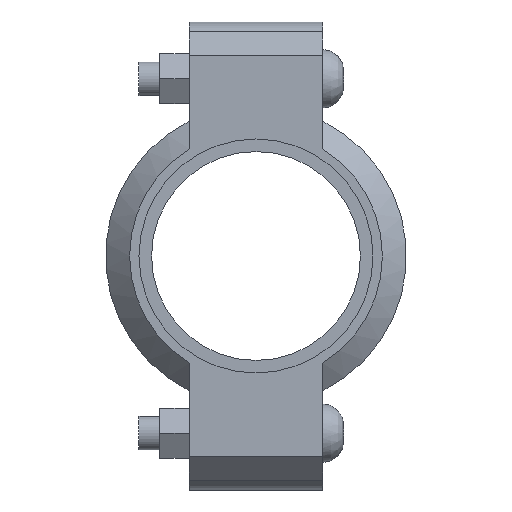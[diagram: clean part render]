
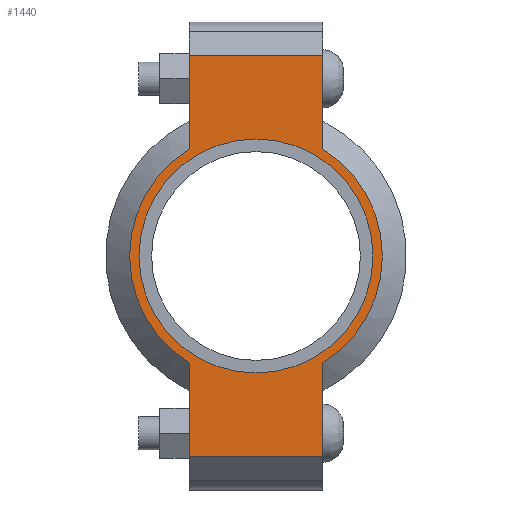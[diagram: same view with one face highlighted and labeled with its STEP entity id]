
A CAD part, left-side view. The second image highlights one B-rep face of the part: STEP entity #1440.
In plain terms, the highlighted planar face has unit normal (-1, 0, 0) as drawn and (0, 0, 1) by its records, which use the part's own axes.
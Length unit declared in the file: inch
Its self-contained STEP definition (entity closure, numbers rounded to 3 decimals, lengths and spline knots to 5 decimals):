
#120=LINE('',#2479,#211);
#128=LINE('',#2515,#219);
#135=LINE('',#2536,#226);
#144=LINE('',#2568,#235);
#145=LINE('',#2572,#236);
#146=LINE('',#2574,#237);
#211=VECTOR('',#2009,0.3937);
#219=VECTOR('',#2025,0.3937);
#226=VECTOR('',#2044,0.3937);
#235=VECTOR('',#2069,0.3937);
#236=VECTOR('',#2074,0.3937);
#237=VECTOR('',#2075,0.3937);
#289=FACE_BOUND('',#449,.T.);
#353=FACE_OUTER_BOUND('',#448,.T.);
#448=EDGE_LOOP('',(#1175,#1176,#1177,#1178,#1179,#1180,#1181,#1182));
#449=EDGE_LOOP('',(#1183));
#546=CIRCLE('',#1683,1.89);
#547=CIRCLE('',#1684,1.89);
#548=CIRCLE('',#1685,1.75);
#651=VERTEX_POINT('',#2476);
#652=VERTEX_POINT('',#2478);
#663=VERTEX_POINT('',#2510);
#664=VERTEX_POINT('',#2514);
#671=VERTEX_POINT('',#2533);
#672=VERTEX_POINT('',#2535);
#682=VERTEX_POINT('',#2571);
#683=VERTEX_POINT('',#2573);
#684=VERTEX_POINT('',#2576);
#815=EDGE_CURVE('',#652,#651,#120,.T.);
#829=EDGE_CURVE('',#664,#663,#128,.T.);
#839=EDGE_CURVE('',#672,#671,#135,.T.);
#854=EDGE_CURVE('',#664,#651,#144,.T.);
#855=EDGE_CURVE('',#663,#672,#546,.T.);
#856=EDGE_CURVE('',#682,#671,#145,.T.);
#857=EDGE_CURVE('',#682,#683,#146,.T.);
#858=EDGE_CURVE('',#683,#652,#547,.T.);
#859=EDGE_CURVE('',#684,#684,#548,.T.);
#1175=ORIENTED_EDGE('',*,*,#854,.F.);
#1176=ORIENTED_EDGE('',*,*,#829,.T.);
#1177=ORIENTED_EDGE('',*,*,#855,.T.);
#1178=ORIENTED_EDGE('',*,*,#839,.T.);
#1179=ORIENTED_EDGE('',*,*,#856,.F.);
#1180=ORIENTED_EDGE('',*,*,#857,.T.);
#1181=ORIENTED_EDGE('',*,*,#858,.T.);
#1182=ORIENTED_EDGE('',*,*,#815,.T.);
#1183=ORIENTED_EDGE('',*,*,#859,.T.);
#1294=PLANE('',#1682);
#1440=ADVANCED_FACE('',(#353,#289),#1294,.T.);
#1682=AXIS2_PLACEMENT_3D('',#2569,#2070,#2071);
#1683=AXIS2_PLACEMENT_3D('',#2570,#2072,#2073);
#1684=AXIS2_PLACEMENT_3D('',#2575,#2076,#2077);
#1685=AXIS2_PLACEMENT_3D('',#2577,#2078,#2079);
#2009=DIRECTION('',(-1.,0.,0.));
#2025=DIRECTION('',(1.,0.,0.));
#2044=DIRECTION('',(1.,0.,0.));
#2069=DIRECTION('',(0.,1.,0.));
#2070=DIRECTION('center_axis',(0.,0.,1.));
#2071=DIRECTION('ref_axis',(1.,0.,0.));
#2072=DIRECTION('center_axis',(0.,0.,1.));
#2073=DIRECTION('ref_axis',(-1.,0.,0.));
#2074=DIRECTION('',(0.,-1.,0.));
#2075=DIRECTION('',(-1.,0.,0.));
#2076=DIRECTION('center_axis',(0.,0.,1.));
#2077=DIRECTION('ref_axis',(-1.,0.,0.));
#2078=DIRECTION('center_axis',(0.,0.,-1.));
#2079=DIRECTION('ref_axis',(-1.,0.,0.));
#2476=CARTESIAN_POINT('',(-3.,1.,0.94));
#2478=CARTESIAN_POINT('',(-1.60378,1.,0.94));
#2479=CARTESIAN_POINT('',(-3.5,1.,0.94));
#2510=CARTESIAN_POINT('',(-1.60378,-1.,0.94));
#2514=CARTESIAN_POINT('',(-3.,-1.,0.94));
#2515=CARTESIAN_POINT('',(3.5,-1.,0.94));
#2533=CARTESIAN_POINT('',(3.,-1.,0.94));
#2535=CARTESIAN_POINT('',(1.60378,-1.,0.94));
#2536=CARTESIAN_POINT('',(3.5,-1.,0.94));
#2568=CARTESIAN_POINT('',(-3.,0.5,0.94));
#2569=CARTESIAN_POINT('Origin',(0.,0.,
0.94));
#2570=CARTESIAN_POINT('Origin',(0.,0.,0.94));
#2571=CARTESIAN_POINT('',(3.,1.,0.94));
#2572=CARTESIAN_POINT('',(3.,-0.5,0.94));
#2573=CARTESIAN_POINT('',(1.60378,1.,0.94));
#2574=CARTESIAN_POINT('',(-3.5,1.,0.94));
#2575=CARTESIAN_POINT('Origin',(0.,0.,0.94));
#2576=CARTESIAN_POINT('',(1.75,0.,0.94));
#2577=CARTESIAN_POINT('Origin',(0.,0.,0.94));
